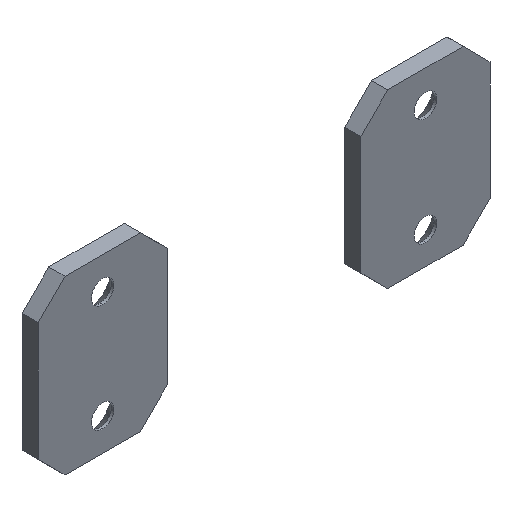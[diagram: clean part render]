
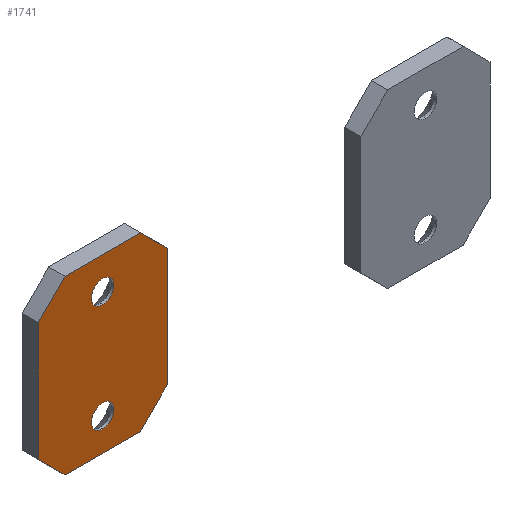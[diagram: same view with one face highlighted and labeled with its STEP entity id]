
A CAD part, isometric view. The second image highlights one B-rep face of the part: STEP entity #1741.
In plain terms, the highlighted planar face has unit normal (0, -1, 0).
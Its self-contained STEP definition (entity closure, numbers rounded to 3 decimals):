
#691=CARTESIAN_POINT(' ',(0.,-3.,-12.1));
#692=VERTEX_POINT(' ',#691);
#706=CARTESIAN_POINT(' ',(0.,-3.,-10.));
#711=DIRECTION(' ',(0.,1.,0.));
#716=DIRECTION(' ',(0.,0.,1.));
#721=AXIS2_PLACEMENT_3D(' ',#706,#711,#716);
#726=CIRCLE('',#721,2.1);
#731=CARTESIAN_POINT(' ',(0.,-3.,-7.9));
#732=VERTEX_POINT(' ',#731);
#736=EDGE_CURVE(' ',#732,#692,#726,.T.);
#1251=CARTESIAN_POINT(' ',(0.,-3.,-10.));
#1256=DIRECTION(' ',(-0.,1.,0.));
#1261=DIRECTION(' ',(0.,0.,-1.));
#1266=AXIS2_PLACEMENT_3D(' ',#1251,#1256,#1261);
#1271=CIRCLE('',#1266,2.1);
#1276=EDGE_CURVE(' ',#692,#732,#1271,.T.);
#1316=DIRECTION(' ',(0.,-1.,0.));
#1321=CARTESIAN_POINT(' ',(-12.,-3.,16.));
#1326=DIRECTION(' ',(0.,-0.,-1.));
#1331=AXIS2_PLACEMENT_3D(' ',#1321,#1316,#1326);
#1336=PLANE('NONE',#1331);
#1341=CARTESIAN_POINT(' ',(-12.,-3.,-11.));
#1346=DIRECTION(' ',(0.,0.,1.));
#1351=VECTOR(' ',#1346,1.);
#1356=LINE('',#1341,#1351);
#1361=CARTESIAN_POINT(' ',(-12.,-3.,-11.));
#1362=VERTEX_POINT(' ',#1361);
#1366=CARTESIAN_POINT(' ',(-12.,-3.,11.));
#1367=VERTEX_POINT(' ',#1366);
#1371=EDGE_CURVE(' ',#1362,#1367,#1356,.T.);
#1376=ORIENTED_EDGE(' ',*,*,#1371,.F.);
#1381=CARTESIAN_POINT(' ',(-12.,-3.,-11.));
#1386=DIRECTION(' ',(0.707,0.,-0.707));
#1391=VECTOR(' ',#1386,1.);
#1396=LINE('',#1381,#1391);
#1401=CARTESIAN_POINT(' ',(-7.,-3.,-16.));
#1402=VERTEX_POINT(' ',#1401);
#1406=EDGE_CURVE(' ',#1362,#1402,#1396,.T.);
#1411=ORIENTED_EDGE(' ',*,*,#1406,.T.);
#1416=CARTESIAN_POINT(' ',(7.,-3.,-16.));
#1421=DIRECTION(' ',(-1.,0.,0.));
#1426=VECTOR(' ',#1421,1.);
#1431=LINE('',#1416,#1426);
#1436=CARTESIAN_POINT(' ',(7.,-3.,-16.));
#1437=VERTEX_POINT(' ',#1436);
#1441=EDGE_CURVE(' ',#1437,#1402,#1431,.T.);
#1446=ORIENTED_EDGE(' ',*,*,#1441,.F.);
#1451=CARTESIAN_POINT(' ',(7.,-3.,-16.));
#1456=DIRECTION(' ',(0.707,0.,0.707));
#1461=VECTOR(' ',#1456,1.);
#1466=LINE('',#1451,#1461);
#1471=CARTESIAN_POINT(' ',(12.,-3.,-11.));
#1472=VERTEX_POINT(' ',#1471);
#1476=EDGE_CURVE(' ',#1437,#1472,#1466,.T.);
#1481=ORIENTED_EDGE(' ',*,*,#1476,.T.);
#1486=CARTESIAN_POINT(' ',(12.,-3.,11.));
#1491=DIRECTION(' ',(0.,0.,-1.));
#1496=VECTOR(' ',#1491,1.);
#1501=LINE('',#1486,#1496);
#1506=CARTESIAN_POINT(' ',(12.,-3.,11.));
#1507=VERTEX_POINT(' ',#1506);
#1511=EDGE_CURVE(' ',#1507,#1472,#1501,.T.);
#1516=ORIENTED_EDGE(' ',*,*,#1511,.F.);
#1521=CARTESIAN_POINT(' ',(12.,-3.,11.));
#1526=DIRECTION(' ',(-0.707,0.,0.707));
#1531=VECTOR(' ',#1526,1.);
#1536=LINE('',#1521,#1531);
#1541=CARTESIAN_POINT(' ',(7.,-3.,16.));
#1542=VERTEX_POINT(' ',#1541);
#1546=EDGE_CURVE(' ',#1507,#1542,#1536,.T.);
#1551=ORIENTED_EDGE(' ',*,*,#1546,.T.);
#1556=CARTESIAN_POINT(' ',(-7.,-3.,16.));
#1561=DIRECTION(' ',(1.,0.,0.));
#1566=VECTOR(' ',#1561,1.);
#1571=LINE('',#1556,#1566);
#1576=CARTESIAN_POINT(' ',(-7.,-3.,16.));
#1577=VERTEX_POINT(' ',#1576);
#1581=EDGE_CURVE(' ',#1577,#1542,#1571,.T.);
#1586=ORIENTED_EDGE(' ',*,*,#1581,.F.);
#1591=CARTESIAN_POINT(' ',(-7.,-3.,16.));
#1596=DIRECTION(' ',(-0.707,0.,-0.707));
#1601=VECTOR(' ',#1596,1.);
#1606=LINE('',#1591,#1601);
#1611=EDGE_CURVE(' ',#1577,#1367,#1606,.T.);
#1616=ORIENTED_EDGE(' ',*,*,#1611,.T.);
#1621=EDGE_LOOP(' ',(#1376,#1411,#1446,#1481,#1516,#1551,#1586,#1616));
#1626=FACE_OUTER_BOUND(' ',#1621,.T.);
#1631=CARTESIAN_POINT(' ',(0.,-3.,10.));
#1636=DIRECTION(' ',(0.,1.,0.));
#1641=DIRECTION(' ',(0.,0.,1.));
#1646=AXIS2_PLACEMENT_3D(' ',#1631,#1636,#1641);
#1651=CIRCLE('',#1646,2.1);
#1656=CARTESIAN_POINT(' ',(0.,-3.,12.1));
#1657=VERTEX_POINT(' ',#1656);
#1661=CARTESIAN_POINT(' ',(0.,-3.,7.9));
#1662=VERTEX_POINT(' ',#1661);
#1666=EDGE_CURVE(' ',#1657,#1662,#1651,.T.);
#1671=ORIENTED_EDGE(' ',*,*,#1666,.T.);
#1676=CARTESIAN_POINT(' ',(0.,-3.,10.));
#1681=DIRECTION(' ',(-0.,1.,0.));
#1686=DIRECTION(' ',(0.,0.,-1.));
#1691=AXIS2_PLACEMENT_3D(' ',#1676,#1681,#1686);
#1696=CIRCLE('',#1691,2.1);
#1701=EDGE_CURVE(' ',#1662,#1657,#1696,.T.);
#1706=ORIENTED_EDGE(' ',*,*,#1701,.T.);
#1711=EDGE_LOOP(' ',(#1671,#1706));
#1716=FACE_BOUND(' ',#1711,.T.);
#1721=ORIENTED_EDGE(' ',*,*,#736,.T.);
#1726=ORIENTED_EDGE(' ',*,*,#1276,.T.);
#1731=EDGE_LOOP(' ',(#1721,#1726));
#1736=FACE_BOUND(' ',#1731,.T.);
#1741=ADVANCED_FACE('NONE',(#1626,#1716,#1736),#1336,.T.);
